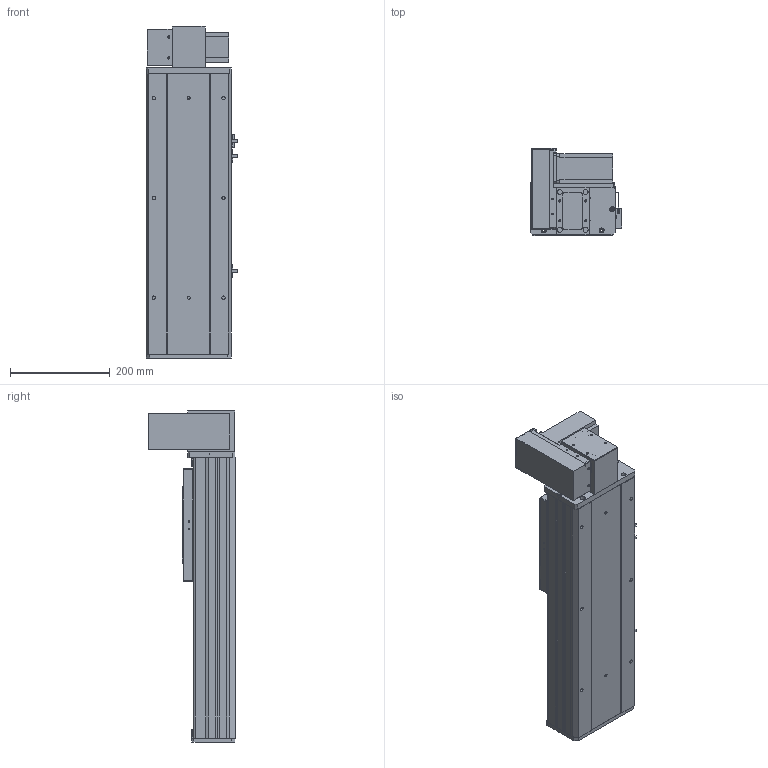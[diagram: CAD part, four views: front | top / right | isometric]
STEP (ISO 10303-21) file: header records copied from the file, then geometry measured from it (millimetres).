
FILE_DESCRIPTION (( 'STEP AP203' ), '1' );
FILE_NAME ('Y170CB-D105-S250-UL-P400W.STEP', '2020-02-20T02:06:08', ( '微软用户' ), ( '微软中国' ), 'SwSTEP 2.0', 'SolidWorks 2017', '' );
FILE_SCHEMA (( 'CONFIG_CONTROL_DESIGN' ));
Length unit declared in the file: millimetre
Products named in the file (18): 0C--雄赽釱俋欶-170; 0B-萇儂楊擘啣; 17B-耜蚾蟀諉啣----; 70CB-詩湍--; san松下电机400不带刹车----; 00B-俋欶BM--163; Y100-135俋离換覜ん--; 70CB-掛极-; Y170CB-D105-S250-UL-P400W; Y170CB-陔俋离換覜結え---; --70CB --喘謫眊楊擘啣-; 70B喘謫眊----; 70CB-耜裔啣-; 70C--詩湍揤踡え-; 70CB--耜裔; 70C-雄赽釱-奻-; B-源倛裔啣; Y1埴倛裔
Assembly tree (21 placements, depth 2):
  Y170CB-D105-S250-UL-P400W
    B-源倛裔啣
    0B-萇儂楊擘啣
    san松下电机400不带刹车----
    70CB-掛极-
    --70CB --喘謫眊楊擘啣-
    70CB-耜裔啣-  x2
    70C--詩湍揤踡え-  x2
    70CB--耜裔
    70C-雄赽釱-奻-
    0C--雄赽釱俋欶-170
    70CB-詩湍--
    Y100-135俋离換覜ん--  x3
    Y170CB-陔俋离換覜結え---
    70B喘謫眊----
    Y1埴倛裔
    17B-耜蚾蟀諉啣----
    00B-俋欶BM--163
Bounding box: 183.5 x 174 x 666 mm (x, y, z)
Volume: 3586890.7 mm3; surface area: 1268438.3 mm2
Topology: 21 solids, 21 shells, 975 faces, 2597 edges, 1722 vertices
Faces by surface type: cylinder 489, plane 462, cone 24
Entity records: 30868 total; most frequent: CARTESIAN_POINT 5616, DIRECTION 5018, ORIENTED_EDGE 4676, EDGE_CURVE 2338, AXIS2_PLACEMENT_3D 1828, VERTEX_POINT 1552, VECTOR 1362, LINE 1362
